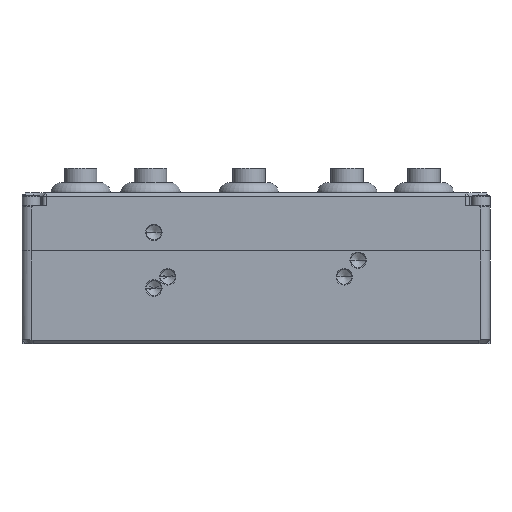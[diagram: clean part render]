
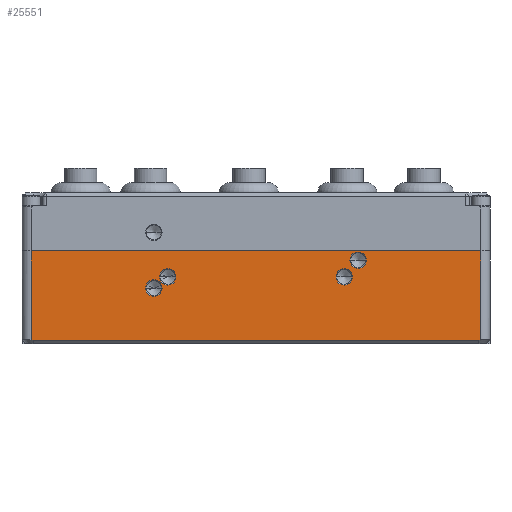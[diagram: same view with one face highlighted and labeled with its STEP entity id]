
A CAD part, front view. The second image highlights one B-rep face of the part: STEP entity #25551.
In plain terms, the highlighted planar face has unit normal (0, -1, 0).
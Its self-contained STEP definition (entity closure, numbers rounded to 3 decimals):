
#9911=LINE('',#124398,#16762);
#10125=LINE('',#124911,#16976);
#10168=LINE('',#125068,#17019);
#10169=LINE('',#125069,#17020);
#16762=VECTOR('',#70591,1.);
#16976=VECTOR('',#70919,1.);
#17019=VECTOR('',#71034,1.);
#17020=VECTOR('',#71035,1.);
#24261=B_SPLINE_CURVE_WITH_KNOTS('',3,(#124904,#124905,#124906,#124907),
 .UNSPECIFIED.,.F.,.F.,(4,4),(0.,1.),.UNSPECIFIED.);
#24262=B_SPLINE_CURVE_WITH_KNOTS('',3,(#124915,#124916,#124917,#124918),
 .UNSPECIFIED.,.F.,.F.,(4,4),(0.,1.),.UNSPECIFIED.);
#25551=ADVANCED_FACE('',(#31209,#31210,#31211,#31212,#31213),#28692,.T.);
#28692=PLANE('',#66931);
#31209=FACE_BOUND('',#31924,.T.);
#31210=FACE_BOUND('',#31925,.T.);
#31211=FACE_BOUND('',#31926,.T.);
#31212=FACE_BOUND('',#31927,.T.);
#31213=FACE_BOUND('',#31928,.T.);
#31924=EDGE_LOOP('',(#36089,#36090));
#31925=EDGE_LOOP('',(#36091,#36092));
#31926=EDGE_LOOP('',(#36093,#36094));
#31927=EDGE_LOOP('',(#36095,#36096));
#31928=EDGE_LOOP('',(#36097,#36098,#36099,#36100,#36101,#36102));
#36089=ORIENTED_EDGE('',*,*,#58072,.T.);
#36090=ORIENTED_EDGE('',*,*,#58073,.T.);
#36091=ORIENTED_EDGE('',*,*,#58074,.T.);
#36092=ORIENTED_EDGE('',*,*,#58075,.T.);
#36093=ORIENTED_EDGE('',*,*,#58076,.T.);
#36094=ORIENTED_EDGE('',*,*,#58077,.T.);
#36095=ORIENTED_EDGE('',*,*,#58078,.T.);
#36096=ORIENTED_EDGE('',*,*,#58079,.T.);
#36097=ORIENTED_EDGE('',*,*,#58021,.T.);
#36098=ORIENTED_EDGE('',*,*,#58080,.T.);
#36099=ORIENTED_EDGE('',*,*,#57775,.F.);
#36100=ORIENTED_EDGE('',*,*,#58081,.T.);
#36101=ORIENTED_EDGE('',*,*,#58025,.F.);
#36102=ORIENTED_EDGE('',*,*,#58023,.F.);
#52188=VERTEX_POINT('',#124399);
#52189=VERTEX_POINT('',#124400);
#52392=VERTEX_POINT('',#124903);
#52393=VERTEX_POINT('',#124908);
#52394=VERTEX_POINT('',#124912);
#52395=VERTEX_POINT('',#124919);
#52404=VERTEX_POINT('',#125053);
#52405=VERTEX_POINT('',#125054);
#52406=VERTEX_POINT('',#125057);
#52407=VERTEX_POINT('',#125058);
#52408=VERTEX_POINT('',#125061);
#52409=VERTEX_POINT('',#125062);
#52410=VERTEX_POINT('',#125065);
#52411=VERTEX_POINT('',#125066);
#57775=EDGE_CURVE('',#52188,#52189,#9911,.T.);
#58021=EDGE_CURVE('',#52393,#52392,#24261,.T.);
#58023=EDGE_CURVE('',#52393,#52394,#10125,.T.);
#58025=EDGE_CURVE('',#52394,#52395,#24262,.T.);
#58072=EDGE_CURVE('',#52404,#52405,#66089,.T.);
#58073=EDGE_CURVE('',#52405,#52404,#66090,.T.);
#58074=EDGE_CURVE('',#52406,#52407,#66091,.T.);
#58075=EDGE_CURVE('',#52407,#52406,#66092,.T.);
#58076=EDGE_CURVE('',#52408,#52409,#66093,.T.);
#58077=EDGE_CURVE('',#52409,#52408,#66094,.T.);
#58078=EDGE_CURVE('',#52410,#52411,#66095,.T.);
#58079=EDGE_CURVE('',#52411,#52410,#66096,.T.);
#58080=EDGE_CURVE('',#52392,#52189,#10168,.T.);
#58081=EDGE_CURVE('',#52188,#52395,#10169,.T.);
#66089=CIRCLE('',#66923,2.2);
#66090=CIRCLE('',#66924,2.2);
#66091=CIRCLE('',#66925,2.2);
#66092=CIRCLE('',#66926,2.2);
#66093=CIRCLE('',#66927,2.2);
#66094=CIRCLE('',#66928,2.2);
#66095=CIRCLE('',#66929,2.2);
#66096=CIRCLE('',#66930,2.2);
#66923=AXIS2_PLACEMENT_3D('',#125052,#71018,#71019);
#66924=AXIS2_PLACEMENT_3D('',#125055,#71020,#71021);
#66925=AXIS2_PLACEMENT_3D('',#125056,#71022,#71023);
#66926=AXIS2_PLACEMENT_3D('',#125059,#71024,#71025);
#66927=AXIS2_PLACEMENT_3D('',#125060,#71026,#71027);
#66928=AXIS2_PLACEMENT_3D('',#125063,#71028,#71029);
#66929=AXIS2_PLACEMENT_3D('',#125064,#71030,#71031);
#66930=AXIS2_PLACEMENT_3D('',#125067,#71032,#71033);
#66931=AXIS2_PLACEMENT_3D('',#125070,#71036,#71037);
#70591=DIRECTION('',(1.,0.,0.));
#70919=DIRECTION('',(-1.,0.,0.));
#71018=DIRECTION('',(0.,1.,0.));
#71019=DIRECTION('',(0.,0.,-1.));
#71020=DIRECTION('',(0.,1.,0.));
#71021=DIRECTION('',(0.,0.,-1.));
#71022=DIRECTION('',(0.,1.,0.));
#71023=DIRECTION('',(0.,0.,-1.));
#71024=DIRECTION('',(0.,1.,0.));
#71025=DIRECTION('',(0.,0.,-1.));
#71026=DIRECTION('',(0.,1.,0.));
#71027=DIRECTION('',(0.,0.,-1.));
#71028=DIRECTION('',(0.,1.,0.));
#71029=DIRECTION('',(0.,0.,-1.));
#71030=DIRECTION('',(0.,1.,0.));
#71031=DIRECTION('',(0.,0.,-1.));
#71032=DIRECTION('',(0.,1.,0.));
#71033=DIRECTION('',(0.,0.,-1.));
#71034=DIRECTION('',(0.,0.,1.));
#71035=DIRECTION('',(0.,0.,-1.));
#71036=DIRECTION('',(0.,-1.,0.));
#71037=DIRECTION('',(0.,0.,1.));
#124398=CARTESIAN_POINT('',(-182.386,-46.556,26.609));
#124399=CARTESIAN_POINT('',(-182.886,-46.556,26.609));
#124400=CARTESIAN_POINT('',(-61.886,-46.556,26.609));
#124903=CARTESIAN_POINT('',(-61.886,-46.556,2.651));
#124904=CARTESIAN_POINT('',(-62.386,-46.556,2.609));
#124905=CARTESIAN_POINT('',(-62.217,-46.556,2.609));
#124906=CARTESIAN_POINT('',(-62.05,-46.556,2.624));
#124907=CARTESIAN_POINT('',(-61.886,-46.556,2.651));
#124908=CARTESIAN_POINT('',(-62.386,-46.556,2.609));
#124911=CARTESIAN_POINT('',(-62.386,-46.556,2.609));
#124912=CARTESIAN_POINT('',(-182.386,-46.556,2.609));
#124915=CARTESIAN_POINT('',(-182.386,-46.556,2.609));
#124916=CARTESIAN_POINT('',(-182.555,-46.556,2.609));
#124917=CARTESIAN_POINT('',(-182.722,-46.556,2.624));
#124918=CARTESIAN_POINT('',(-182.886,-46.556,2.651));
#124919=CARTESIAN_POINT('',(-182.886,-46.556,2.651));
#125052=CARTESIAN_POINT('',(-146.136,-46.556,19.609));
#125053=CARTESIAN_POINT('',(-143.936,-46.556,19.609));
#125054=CARTESIAN_POINT('',(-148.336,-46.556,19.609));
#125055=CARTESIAN_POINT('',(-146.136,-46.556,19.609));
#125056=CARTESIAN_POINT('',(-149.886,-46.556,16.609));
#125057=CARTESIAN_POINT('',(-147.686,-46.556,16.609));
#125058=CARTESIAN_POINT('',(-152.086,-46.556,16.609));
#125059=CARTESIAN_POINT('',(-149.886,-46.556,16.609));
#125060=CARTESIAN_POINT('',(-94.886,-46.556,24.109));
#125061=CARTESIAN_POINT('',(-92.686,-46.556,24.109));
#125062=CARTESIAN_POINT('',(-97.086,-46.556,24.109));
#125063=CARTESIAN_POINT('',(-94.886,-46.556,24.109));
#125064=CARTESIAN_POINT('',(-98.636,-46.556,19.609));
#125065=CARTESIAN_POINT('',(-96.436,-46.556,19.609));
#125066=CARTESIAN_POINT('',(-100.836,-46.556,19.609));
#125067=CARTESIAN_POINT('',(-98.636,-46.556,19.609));
#125068=CARTESIAN_POINT('',(-61.886,-46.556,26.609));
#125069=CARTESIAN_POINT('',(-182.886,-46.556,3.852));
#125070=CARTESIAN_POINT('',(-185.386,-46.556,26.609));
